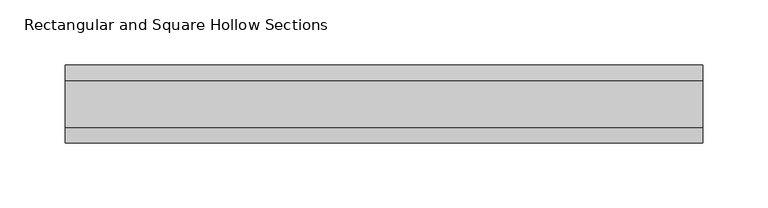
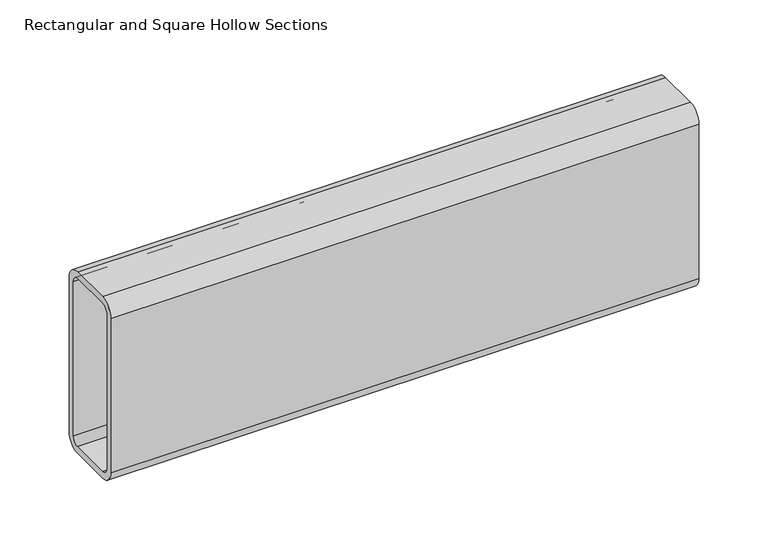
"""IFC4 building model written with IfcOpenShell, lengths in millimetres: beam geometry, Rectangular and Square Hollow Sections : TREC160x60x6."""

from ifc_helpers import new_model, si_unit, point, frame, frame_2d, origin, place, context, project, spatial, polyline, circle_curve, trimmed, segment, composite_curve, outline, extrude, source, transform, mapped, element, save


def rectangular_and_square_hollow_sections_33797d7a(model_context):
    return source(origin(), model_context, "Body", "SweptSolid", [
        extrude(outline(composite_curve([segment(polyline([(30.0, 68.0), (30.0, -68.0)]), True, "CONTINUOUS"), segment(trimmed(circle_curve(frame_2d((18.0, -68.0)), 12.0), [point((30.0, -68.0))], [point((18.0, -80.0))], False, "CARTESIAN"), True, "CONTINUOUS"), segment(polyline([(18.0, -80.0), (-18.0, -80.0)]), True, "CONTINUOUS"), segment(trimmed(circle_curve(frame_2d((-18.0, -68.0)), 12.0), [point((-18.0, -80.0))], [point((-30.0, -68.0))], False, "CARTESIAN"), True, "CONTINUOUS"), segment(polyline([(-30.0, -68.0), (-30.0, 68.0)]), True, "CONTINUOUS"), segment(trimmed(circle_curve(frame_2d((-18.0, 68.0)), 12.0), [point((-30.0, 68.0))], [point((-18.0, 80.0))], False, "CARTESIAN"), True, "CONTINUOUS"), segment(polyline([(-18.0, 80.0), (18.0, 80.0)]), True, "CONTINUOUS"), segment(trimmed(circle_curve(frame_2d((18.0, 68.0)), 12.0), [point((18.0, 80.0))], [point((30.0, 68.0))], False, "CARTESIAN"), True, "CONTINUOUS")], self_intersect=False), holes=[composite_curve([segment(trimmed(circle_curve(frame_2d((-18.0, 68.0)), 6.0), [point((-18.0, 74.0))], [point((-24.0, 68.0))], True, "CARTESIAN"), True, "CONTINUOUS"), segment(polyline([(-24.0, 68.0), (-24.0, -68.0)]), True, "CONTINUOUS"), segment(trimmed(circle_curve(frame_2d((-18.0, -68.0)), 6.0), [point((-24.0, -68.0))], [point((-18.0, -74.0))], True, "CARTESIAN"), True, "CONTINUOUS"), segment(polyline([(-18.0, -74.0), (18.0, -74.0)]), True, "CONTINUOUS"), segment(trimmed(circle_curve(frame_2d((18.0, -68.0)), 6.0), [point((18.0, -74.0))], [point((24.0, -68.0))], True, "CARTESIAN"), True, "CONTINUOUS"), segment(polyline([(24.0, -68.0), (24.0, 68.0)]), True, "CONTINUOUS"), segment(trimmed(circle_curve(frame_2d((18.0, 68.0)), 6.0), [point((24.0, 68.0))], [point((18.0, 74.0))], True, "CARTESIAN"), True, "CONTINUOUS"), segment(polyline([(18.0, 74.0), (-18.0, 74.0)]), True, "CONTINUOUS")], self_intersect=False)]), frame((-82.5, 0.0, 0.0), z_axis=(1.0, 0.0, 0.0), x_axis=(0.0, 1.0, 0.0)), (0.0, 0.0, 1.0), 490.0),
    ])


if __name__ == "__main__":
    model = new_model("IFC4")
    model_context = context("Model", 3, world=origin())
    ifc_project = project(units=[si_unit("LENGTHUNIT", "METRE", prefix="MILLI")], contexts=[model_context])
    site = spatial("IfcSite", under=ifc_project)
    building = spatial("IfcBuilding", under=site)
    placement = place(None, origin())
    rectangular_and_square_hollow_sections_shape = rectangular_and_square_hollow_sections_33797d7a(model_context)
    element("IfcBeam", 1, ObjectType="Rectangular and Square Hollow Sections : TREC160x60x6", at=placement, inside=building, context=model_context, shape_type="MappedRepresentation", body=[
        mapped(rectangular_and_square_hollow_sections_shape, transform((0.0, 0.0, 0.0), x_axis=(1.0, 0.0, 0.0), y_axis=(0.0, 1.0, 0.0), z_axis=(0.0, 0.0, 1.0))),
    ])
    save(model, "model.ifc")
